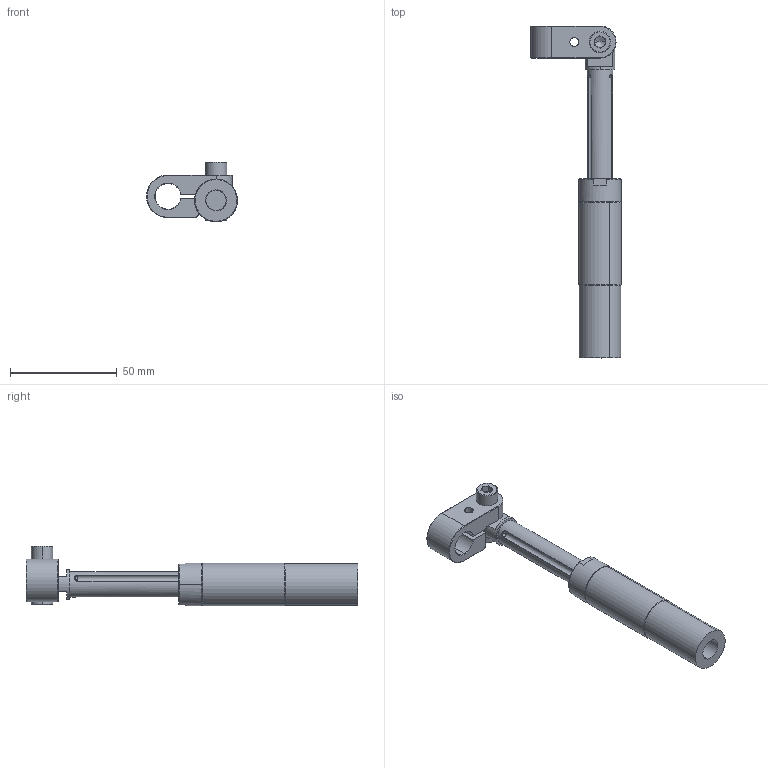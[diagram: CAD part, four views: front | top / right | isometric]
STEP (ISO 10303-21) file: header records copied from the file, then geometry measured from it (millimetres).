
FILE_DESCRIPTION(/* description */ (''),/* implementation_level */ '2;1');
FILE_NAME(/* name */ '8.Y00334-GSRT2051-12.stp',/* time_stamp */ '2023-03-09T11:04:20+08:00',/* author */ (''),/* organization */ (''),/* preprocessor_version */ 'ST-DEVELOPER v16',/* originating_system */ 'SIEMENS PLM Software NX 10.0',/* authorisation */ '');
FILE_SCHEMA (('AUTOMOTIVE_DESIGN { 1 0 10303 214 3 1 1 1 }'));
Length unit declared in the file: millimetre
Products named in the file (1): _model119
Bounding box: 42.5 x 155.5 x 27.9 mm (x, y, z)
Volume: 35120.7 mm3; surface area: 17012.9 mm2
Topology: 1 solids, 7 shells, 229 faces, 559 edges, 351 vertices
Faces by surface type: cylinder 77, plane 73, cone 51, sphere 14, bspline 8, torus 6
Full cylindrical faces by diameter (mm): 6 x1, 12 x1
Entity records: 12113 total; most frequent: CARTESIAN_POINT 5743, DIRECTION 1156, ORIENTED_EDGE 1130, EDGE_CURVE 565, AXIS2_PLACEMENT_3D 450, VERTEX_POINT 368, EDGE_LOOP 257, LINE 256
